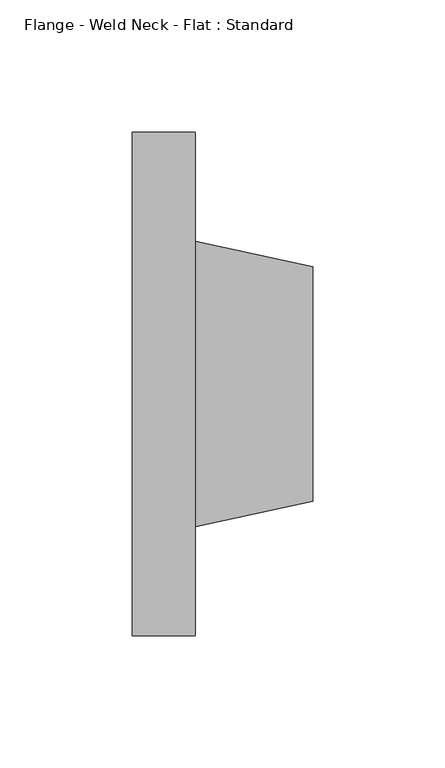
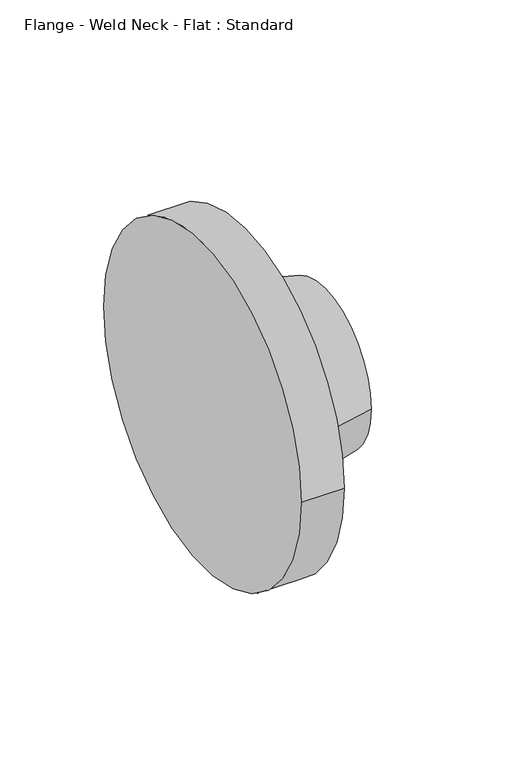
"""IFC4 building model written with IfcOpenShell, lengths in millimetres: valve geometry, Flange - Weld Neck - Flat : Standard."""

from ifc_helpers import new_model, si_unit, frame, origin, place, context, project, spatial, polyline, circle_curve, source, transform, mapped, element, save
from ifc_brep_helpers import plane_surface, cylinder_surface, revolved_surface, advanced_brep


def flange_weld_neck_flat_standard_3e6aa5e8(model_context):
    return source(origin(), model_context, "Body", "AdvancedBrep", [
        advanced_brep(
        [(1.5875, -95.25, 0.0), (1.5875, 95.25, 0.0), (25.4, -95.25, 0.0), (25.4, 95.25, 0.0), (25.4, 53.975, 0.0), (25.4, -53.975, 0.0), (69.85, -44.45, 0.0), (69.85, 44.45, 0.0)],
        [
            (0, 1, circle_curve(frame((1.5875, 0.0, 0.0), z_axis=(-1.0, 0.0, 0.0), x_axis=(0.0, 1.0, 0.0)), 95.25)),
            (1, 0, circle_curve(frame((1.5875, 0.0, 0.0), z_axis=(-1.0, 0.0, 0.0), x_axis=(0.0, 1.0, 0.0)), 95.25)),
            (2, 3, circle_curve(frame((25.4, 0.0, 0.0), z_axis=(1.0, 0.0, 0.0), x_axis=(0.0, 1.0, 0.0)), 95.25)),
            (3, 2, circle_curve(frame((25.4, 0.0, 0.0), z_axis=(1.0, 0.0, 0.0), x_axis=(0.0, 1.0, 0.0)), 95.25)),
            (4, 5, circle_curve(frame((25.4, 0.0, 0.0), z_axis=(-1.0, 0.0, 0.0), x_axis=(0.0, -1.0, 0.0)), 53.975)),
            (5, 4, circle_curve(frame((25.4, 0.0, 0.0), z_axis=(-1.0, 0.0, 0.0), x_axis=(0.0, 1.0, 0.0)), 53.975)),
            (0, 2),
            (3, 1),
            (6, 7, circle_curve(frame((69.85, 0.0, 0.0), z_axis=(1.0, 0.0, 0.0), x_axis=(0.0, -1.0, 0.0)), 44.45)),
            (7, 6, circle_curve(frame((69.85, 0.0, 0.0), z_axis=(1.0, 0.0, 0.0), x_axis=(0.0, 1.0, 0.0)), 44.45)),
            (6, 5),
            (4, 7),
        ],
        [
            plane_surface(frame((1.5875, 0.0, 0.0), z_axis=(-1.0, 0.0, 0.0), x_axis=(0.0, 0.0, 1.0))),
            plane_surface(frame((25.4, 0.0, 0.0), z_axis=(1.0, 0.0, 0.0), x_axis=(0.0, 0.0, 1.0))),
            cylinder_surface(frame((1.5875, 0.0, 0.0), z_axis=(-1.0, 0.0, 0.0), x_axis=(0.0, 1.0, 0.0)), 95.25),
            plane_surface(frame((69.85, 0.0, 0.0), z_axis=(1.0, 0.0, 0.0), x_axis=(0.0, 0.0, -1.0))),
            revolved_surface(polyline([(69.85, -44.4499999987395, 0.0), (25.400000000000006, -53.975, 0.0)]), (277.2833333, 0.0, 0.0), (-1.0, 0.0, 0.0)),
            revolved_surface(polyline([(69.85, 44.4499999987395, 0.0), (25.400000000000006, 53.975, 0.0)]), (277.2833333, 0.0, 0.0), (-1.0, 0.0, 0.0)),
        ],
        [
            (0, [[1, 2]]),
            (1, [[3, 4], [5, 6]]),
            (2, [[-1, 7, -4, 8]]),
            (2, [[-2, -8, -3, -7]]),
            (3, [[9, 10]]),
            (4, [[-9, 11, -5, 12]]),
            (5, [[-10, -12, -6, -11]]),
        ],
    ),
    ])


if __name__ == "__main__":
    model = new_model("IFC4")
    model_context = context("Model", 3, world=origin())
    ifc_project = project(units=[si_unit("LENGTHUNIT", "METRE", prefix="MILLI")], contexts=[model_context])
    site = spatial("IfcSite", under=ifc_project)
    building = spatial("IfcBuilding", under=site)
    placement = place(None, origin())
    flange_weld_neck_flat_standard_shape = flange_weld_neck_flat_standard_3e6aa5e8(model_context)
    element("IfcValve", 1, ObjectType="Flange - Weld Neck - Flat : Standard", at=placement, inside=building, context=model_context, shape_type="MappedRepresentation", body=[
        mapped(flange_weld_neck_flat_standard_shape, transform((0.0, 0.0, 0.0), x_axis=(1.0, 0.0, 0.0), y_axis=(0.0, 1.0, 0.0), z_axis=(0.0, 0.0, 1.0))),
    ])
    save(model, "model.ifc")
